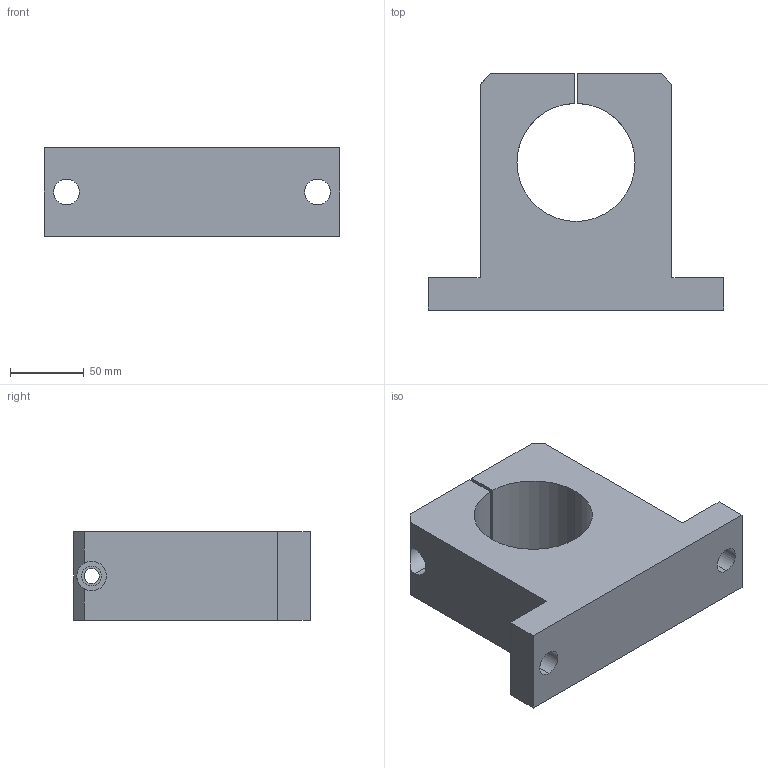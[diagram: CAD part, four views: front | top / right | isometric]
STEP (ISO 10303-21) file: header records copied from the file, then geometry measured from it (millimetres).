
FILE_DESCRIPTION (( 'STEP AP214' ), '1' );
FILE_NAME ('KWB55-80.step', '2020-03-04T13:40:17', ( '' ), ( '' ), 'SwSTEP 2.0', 'SolidWorks 2019', '' );
FILE_SCHEMA (( 'AUTOMOTIVE_DESIGN' ));
Length unit declared in the file: millimetre
Products named in the file (1): KWB55-80
Bounding box: 200 x 160 x 60 mm (x, y, z)
Volume: 1005548.2 mm3; surface area: 100394 mm2
Topology: 1 solids, 1 shells, 29 faces, 84 edges, 56 vertices
Faces by surface type: plane 16, cylinder 13
Entity records: 1038 total; most frequent: CARTESIAN_POINT 176, DIRECTION 170, ORIENTED_EDGE 168, EDGE_CURVE 84, AXIS2_PLACEMENT_3D 58, VERTEX_POINT 56, LINE 54, VECTOR 54
